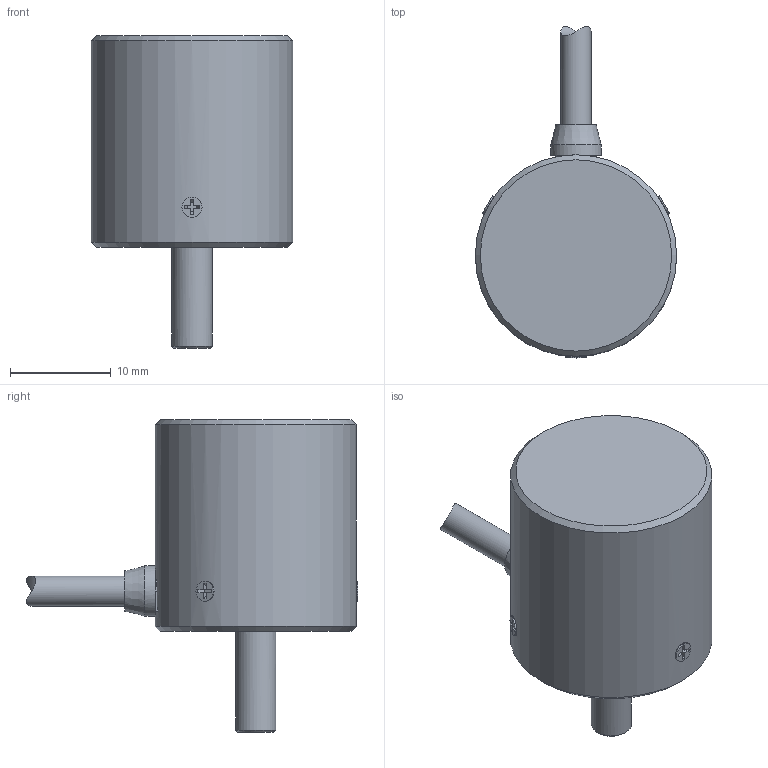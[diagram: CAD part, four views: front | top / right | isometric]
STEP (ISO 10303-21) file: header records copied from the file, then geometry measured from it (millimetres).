
FILE_DESCRIPTION(('STEP AP242'),'1');
FILE_NAME('1.stp','2022-10-24T06:32:35',(' '),(' '),'Spatial InterOp 3D',' ',' ');
FILE_SCHEMA(('AP242_MANAGED_MODEL_BASED_3D_ENGINEERING_MIM_LF {1 0 10303 442 1 1 4}'));
Length unit declared in the file: millimetre
Products named in the file (6): L3F01A MAS-17-＊＊＊□1; 018211 サラ0番1種 M1.4x2.5 鉄 三価黒; 029920 10芯(3)ケーブル MA17P; - ケーブルモデルアセンブリ用; - ゴムプッシュ(φ3.0)
Assembly tree (7 placements, depth 3):
  L3F01A MAS-17-＊＊＊□1
    L3F01A MAS-17-＊＊＊□1
    018211 サラ0番1種 M1.4x2.5 鉄 三価黒  x3
    029920 10芯(3)ケーブル MA17P
      - ケーブルモデルアセンブリ用
      - ゴムプッシュ(φ3.0)
Bounding box: 20 x 32.96 x 31 mm (x, y, z)
Volume: 6648.4 mm3; surface area: 2694.9 mm2
Topology: 6 solids, 6 shells, 126 faces, 295 edges, 189 vertices
Faces by surface type: plane 72, cylinder 36, cone 15, bspline 3
Full cylindrical faces by diameter (mm): 1.1 x6, 1.4 x6, 1.6 x7, 2 x3, 3 x2, 4 x1, 5 x1, 20 x1
Entity records: 3750 total; most frequent: CARTESIAN_POINT 884, DIRECTION 370, ORIENTED_EDGE 302, EDGE_CURVE 151, AXIS2_PLACEMENT_3D 142, EDGE_LOOP 133, VERTEX_POINT 119, FACE_OUTER_BOUND 112
